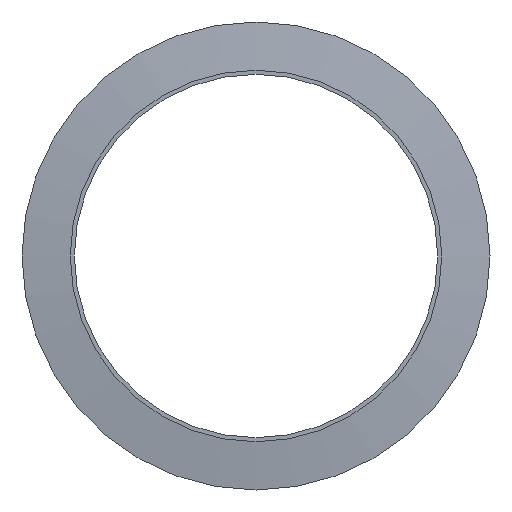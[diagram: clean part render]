
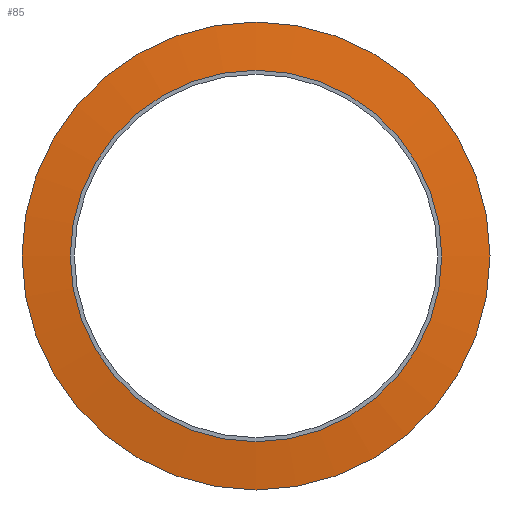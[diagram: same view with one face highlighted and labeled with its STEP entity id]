
A CAD part, left-side view. The second image highlights one B-rep face of the part: STEP entity #85.
In plain terms, the highlighted conical face has half-angle 82.946 degrees and reference radius 23 mm.
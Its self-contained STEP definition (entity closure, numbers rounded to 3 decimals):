
#31 = PLANE('',#32);
#32 = AXIS2_PLACEMENT_3D('',#33,#34,#35);
#33 = CARTESIAN_POINT('',(2.78,0.,0.));
#34 = DIRECTION('',(1.,0.,0.));
#35 = DIRECTION('',(-0.,1.,0.));
#57 = EDGE_CURVE('',#58,#58,#60,.T.);
#58 = VERTEX_POINT('',#59);
#59 = CARTESIAN_POINT('',(2.78,23.,0.));
#60 = SURFACE_CURVE('',#61,(#66,#73),.PCURVE_S1.);
#61 = CIRCLE('',#62,23.);
#62 = AXIS2_PLACEMENT_3D('',#63,#64,#65);
#63 = CARTESIAN_POINT('',(2.78,0.,0.));
#64 = DIRECTION('',(1.,0.,0.));
#65 = DIRECTION('',(-0.,1.,0.));
#66 = PCURVE('',#31,#67);
#67 = DEFINITIONAL_REPRESENTATION('',(#68),#72);
#68 = CIRCLE('',#69,23.);
#69 = AXIS2_PLACEMENT_2D('',#70,#71);
#70 = CARTESIAN_POINT('',(0.,0.));
#71 = DIRECTION('',(1.,-0.));
#72 = ( GEOMETRIC_REPRESENTATION_CONTEXT(2) 
PARAMETRIC_REPRESENTATION_CONTEXT() REPRESENTATION_CONTEXT('2D SPACE',''
  ) );
#73 = PCURVE('',#74,#79);
#74 = CONICAL_SURFACE('',#75,23.,1.448);
#75 = AXIS2_PLACEMENT_3D('',#76,#77,#78);
#76 = CARTESIAN_POINT('',(2.78,0.,0.));
#77 = DIRECTION('',(1.,0.,0.));
#78 = DIRECTION('',(-0.,1.,0.));
#79 = DEFINITIONAL_REPRESENTATION('',(#80),#84);
#80 = LINE('',#81,#82);
#81 = CARTESIAN_POINT('',(0.,0.));
#82 = VECTOR('',#83,1.);
#83 = DIRECTION('',(1.,0.));
#84 = ( GEOMETRIC_REPRESENTATION_CONTEXT(2) 
PARAMETRIC_REPRESENTATION_CONTEXT() REPRESENTATION_CONTEXT('2D SPACE',''
  ) );
#85 = ADVANCED_FACE('',(#86),#74,.T.);
#86 = FACE_BOUND('',#87,.T.);
#87 = EDGE_LOOP('',(#88,#89,#112,#139));
#88 = ORIENTED_EDGE('',*,*,#57,.T.);
#89 = ORIENTED_EDGE('',*,*,#90,.T.);
#90 = EDGE_CURVE('',#58,#91,#93,.T.);
#91 = VERTEX_POINT('',#92);
#92 = CARTESIAN_POINT('',(3.52,28.98,0.));
#93 = SEAM_CURVE('',#94,(#98,#105),.PCURVE_S1.);
#94 = LINE('',#95,#96);
#95 = CARTESIAN_POINT('',(2.78,23.,0.));
#96 = VECTOR('',#97,1.);
#97 = DIRECTION('',(0.123,0.992,0.));
#98 = PCURVE('',#74,#99);
#99 = DEFINITIONAL_REPRESENTATION('',(#100),#104);
#100 = LINE('',#101,#102);
#101 = CARTESIAN_POINT('',(0.,0.));
#102 = VECTOR('',#103,1.);
#103 = DIRECTION('',(0.,1.));
#104 = ( GEOMETRIC_REPRESENTATION_CONTEXT(2) 
PARAMETRIC_REPRESENTATION_CONTEXT() REPRESENTATION_CONTEXT('2D SPACE',''
  ) );
#105 = PCURVE('',#74,#106);
#106 = DEFINITIONAL_REPRESENTATION('',(#107),#111);
#107 = LINE('',#108,#109);
#108 = CARTESIAN_POINT('',(6.283,0.));
#109 = VECTOR('',#110,1.);
#110 = DIRECTION('',(0.,1.));
#111 = ( GEOMETRIC_REPRESENTATION_CONTEXT(2) 
PARAMETRIC_REPRESENTATION_CONTEXT() REPRESENTATION_CONTEXT('2D SPACE',''
  ) );
#112 = ORIENTED_EDGE('',*,*,#113,.F.);
#113 = EDGE_CURVE('',#91,#91,#114,.T.);
#114 = SURFACE_CURVE('',#115,(#120,#127),.PCURVE_S1.);
#115 = CIRCLE('',#116,28.98);
#116 = AXIS2_PLACEMENT_3D('',#117,#118,#119);
#117 = CARTESIAN_POINT('',(3.52,0.,0.));
#118 = DIRECTION('',(1.,0.,0.));
#119 = DIRECTION('',(-0.,1.,0.));
#120 = PCURVE('',#74,#121);
#121 = DEFINITIONAL_REPRESENTATION('',(#122),#126);
#122 = LINE('',#123,#124);
#123 = CARTESIAN_POINT('',(0.,0.74));
#124 = VECTOR('',#125,1.);
#125 = DIRECTION('',(1.,0.));
#126 = ( GEOMETRIC_REPRESENTATION_CONTEXT(2) 
PARAMETRIC_REPRESENTATION_CONTEXT() REPRESENTATION_CONTEXT('2D SPACE',''
  ) );
#127 = PCURVE('',#128,#133);
#128 = CYLINDRICAL_SURFACE('',#129,28.98);
#129 = AXIS2_PLACEMENT_3D('',#130,#131,#132);
#130 = CARTESIAN_POINT('',(3.52,0.,0.));
#131 = DIRECTION('',(1.,0.,0.));
#132 = DIRECTION('',(-0.,1.,0.));
#133 = DEFINITIONAL_REPRESENTATION('',(#134),#138);
#134 = LINE('',#135,#136);
#135 = CARTESIAN_POINT('',(0.,0.));
#136 = VECTOR('',#137,1.);
#137 = DIRECTION('',(1.,0.));
#138 = ( GEOMETRIC_REPRESENTATION_CONTEXT(2) 
PARAMETRIC_REPRESENTATION_CONTEXT() REPRESENTATION_CONTEXT('2D SPACE',''
  ) );
#139 = ORIENTED_EDGE('',*,*,#90,.F.);
